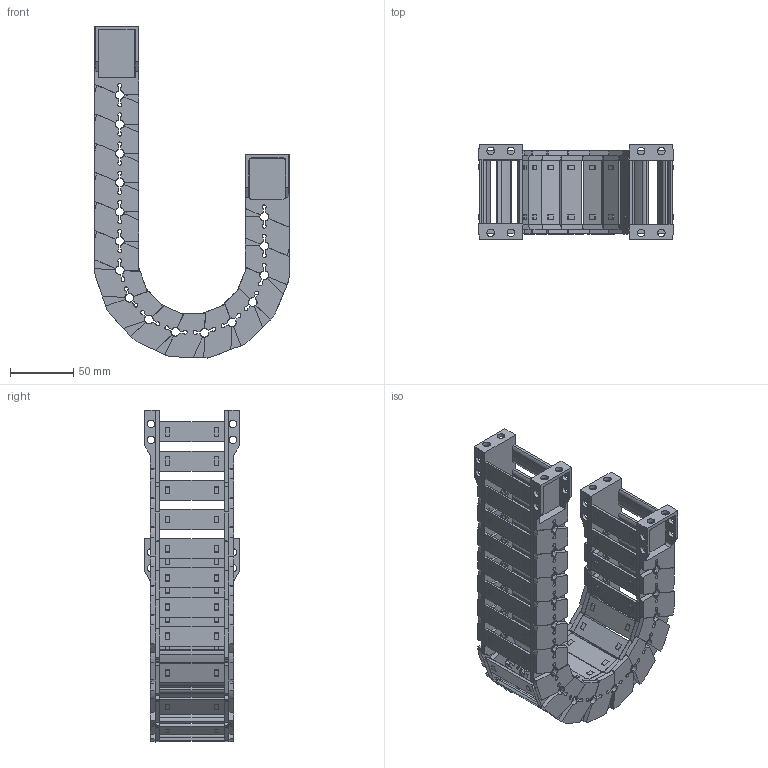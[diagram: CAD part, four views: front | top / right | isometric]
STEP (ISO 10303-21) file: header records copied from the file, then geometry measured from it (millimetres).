
FILE_DESCRIPTION(/* description */ (''),/* implementation_level */ '2;1');
FILE_NAME(/* name */ 'JY28-50-R55.stp',/* time_stamp */ '2026-06-03T14:04:51+08:00',/* author */ (''),/* organization */ (''),/* preprocessor_version */ 'ST-DEVELOPER v19.4',/* originating_system */ 'SIEMENS PLM Software NX2306.5001',/* authorisation */ '');
FILE_SCHEMA (('AP203_CONFIGURATION_CONTROLLED_3D_DESIGN_OF_MECHANICAL_PARTS_AND_ASSEMBLIES_MIM_LF { 1 0 10303 403 2 1 2}'));
Products named in the file (1): _model1_objects
Bounding box: 153.11 x 74.5 x 261.45 mm (x, y, z)
Volume: 283289.5 mm3; surface area: 190455.6 mm2
Topology: 18 solids, 18 shells, 3920 faces, 10964 edges, 7130 vertices
Faces by surface type: plane 2177, cone 940, cylinder 741, bspline 60, torus 2
Full cylindrical faces by diameter (mm): 6 x24
Entity records: 135289 total; most frequent: CARTESIAN_POINT 33855, ORIENTED_EDGE 21836, DIRECTION 20876, EDGE_CURVE 10918, AXIS2_PLACEMENT_3D 7349, VERTEX_POINT 7108, LINE 6178, VECTOR 6178
